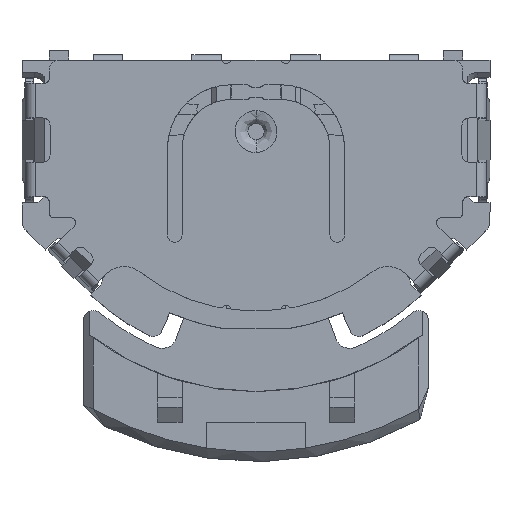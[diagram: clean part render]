
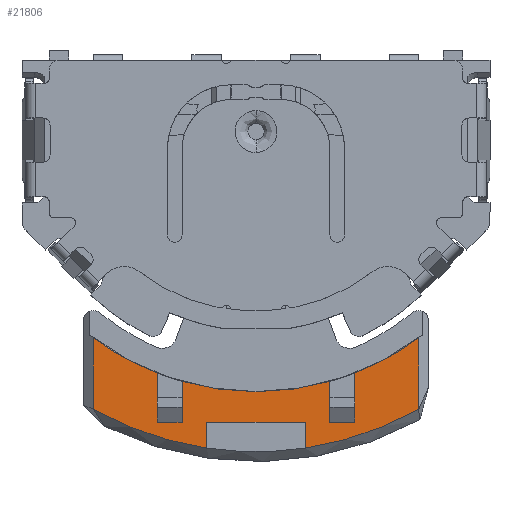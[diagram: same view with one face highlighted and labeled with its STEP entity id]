
A CAD part, top view. The second image highlights one B-rep face of the part: STEP entity #21806.
In plain terms, the highlighted planar face has unit normal (0, 0, 1).
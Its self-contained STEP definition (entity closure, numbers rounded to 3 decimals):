
#165 = CARTESIAN_POINT ( 'NONE',  ( -1., -6.676, -5.2 ) ) ;
#202 = VECTOR ( 'NONE', #15166, 1000. ) ;
#405 = VERTEX_POINT ( 'NONE', #165 ) ;
#428 = EDGE_CURVE ( 'NONE', #12912, #20238, #3675, .T. ) ;
#496 = DIRECTION ( 'NONE',  ( -1., 0., 0. ) ) ;
#499 = AXIS2_PLACEMENT_3D ( 'NONE', #1340, #14045, #3149 ) ;
#554 = LINE ( 'NONE', #22829, #19348 ) ;
#783 = DIRECTION ( 'NONE',  ( 0., 0., 1. ) ) ;
#986 = AXIS2_PLACEMENT_3D ( 'NONE', #13020, #2152, #14880 ) ;
#1002 = DIRECTION ( 'NONE',  ( 0., -1., 0. ) ) ;
#1262 = PLANE ( 'NONE',  #499 ) ;
#1340 = CARTESIAN_POINT ( 'NONE',  ( 3.3, -6.689, -5.2 ) ) ;
#1372 = DIRECTION ( 'NONE',  ( -1., 0., 0. ) ) ;
#1531 = CARTESIAN_POINT ( 'NONE',  ( 0., -6.15, -5.2 ) ) ;
#1600 = VECTOR ( 'NONE', #1372, 1000. ) ;
#1644 = DIRECTION ( 'NONE',  ( 0., -1., 0. ) ) ;
#1645 = CIRCLE ( 'NONE', #12744, 5.53 ) ;
#1815 = CARTESIAN_POINT ( 'NONE',  ( -1.5, -5.323, -5.2 ) ) ;
#2152 = DIRECTION ( 'NONE',  ( 0., 0., -1. ) ) ;
#2460 = LINE ( 'NONE', #12924, #7247 ) ;
#2471 = DIRECTION ( 'NONE',  ( 0., 1., 0. ) ) ;
#2616 = CIRCLE ( 'NONE', #986, 5.53 ) ;
#2637 = VERTEX_POINT ( 'NONE', #9188 ) ;
#3149 = DIRECTION ( 'NONE',  ( 0., 1., 0. ) ) ;
#3254 = EDGE_CURVE ( 'NONE', #2637, #12912, #23523, .T. ) ;
#3315 = CARTESIAN_POINT ( 'NONE',  ( -3.3, -4.437, -5.2 ) ) ;
#3675 = LINE ( 'NONE', #16595, #8467 ) ;
#3875 = LINE ( 'NONE', #18636, #22714 ) ;
#4050 = VERTEX_POINT ( 'NONE', #19304 ) ;
#4281 = EDGE_CURVE ( 'NONE', #19255, #405, #16537, .T. ) ;
#4450 = CARTESIAN_POINT ( 'NONE',  ( 1.5, -6.15, -5.2 ) ) ;
#4757 = CARTESIAN_POINT ( 'NONE',  ( 1., -5.556, -5.2 ) ) ;
#5122 = LINE ( 'NONE', #22086, #9926 ) ;
#5447 = VECTOR ( 'NONE', #21298, 1000. ) ;
#5459 = VERTEX_POINT ( 'NONE', #3315 ) ;
#5498 = DIRECTION ( 'NONE',  ( 0., 1., 0. ) ) ;
#5629 = EDGE_CURVE ( 'NONE', #17102, #2637, #2460, .T. ) ;
#5852 = DIRECTION ( 'NONE',  ( 0., 1., 0. ) ) ;
#5979 = EDGE_CURVE ( 'NONE', #20238, #8127, #6367, .T. ) ;
#6038 = ORIENTED_EDGE ( 'NONE', *, *, #7998, .T. ) ;
#6367 = LINE ( 'NONE', #1531, #1600 ) ;
#6835 = CARTESIAN_POINT ( 'NONE',  ( 0., 0., -5.2 ) ) ;
#6966 = VECTOR ( 'NONE', #2471, 1000. ) ;
#7213 = VERTEX_POINT ( 'NONE', #15674 ) ;
#7247 = VECTOR ( 'NONE', #10449, 1000. ) ;
#7655 = CARTESIAN_POINT ( 'NONE',  ( 2., -5.156, -5.2 ) ) ;
#7998 = EDGE_CURVE ( 'NONE', #405, #7213, #10000, .T. ) ;
#8079 = LINE ( 'NONE', #20646, #6966 ) ;
#8127 = VERTEX_POINT ( 'NONE', #9540 ) ;
#8289 = CARTESIAN_POINT ( 'NONE',  ( 0., 0., -5.2 ) ) ;
#8372 = EDGE_CURVE ( 'NONE', #5459, #19255, #13397, .T. ) ;
#8467 = VECTOR ( 'NONE', #20426, 1000. ) ;
#8513 = VECTOR ( 'NONE', #1644, 1000. ) ;
#8651 = DIRECTION ( 'NONE',  ( -1., 0., 0. ) ) ;
#8711 = CARTESIAN_POINT ( 'NONE',  ( 2., -6.15, -5.2 ) ) ;
#9188 = CARTESIAN_POINT ( 'NONE',  ( 1.5, -5.323, -5.2 ) ) ;
#9540 = CARTESIAN_POINT ( 'NONE',  ( -2., -6.15, -5.2 ) ) ;
#9795 = LINE ( 'NONE', #13316, #202 ) ;
#9926 = VECTOR ( 'NONE', #16568, 1000. ) ;
#9946 = ORIENTED_EDGE ( 'NONE', *, *, #5629, .T. ) ;
#10000 = LINE ( 'NONE', #12759, #23492 ) ;
#10244 = EDGE_CURVE ( 'NONE', #4050, #5459, #1645, .T. ) ;
#10449 = DIRECTION ( 'NONE',  ( 0., 1., 0. ) ) ;
#11038 = AXIS2_PLACEMENT_3D ( 'NONE', #23001, #783, #19220 ) ;
#11188 = VERTEX_POINT ( 'NONE', #8711 ) ;
#11351 = DIRECTION ( 'NONE',  ( 0., 0., -1. ) ) ;
#11387 = ORIENTED_EDGE ( 'NONE', *, *, #19606, .T. ) ;
#11394 = CARTESIAN_POINT ( 'NONE',  ( 3.3, -4.437, -5.2 ) ) ;
#11412 = CARTESIAN_POINT ( 'NONE',  ( 1., -6.15, -5.2 ) ) ;
#12744 = AXIS2_PLACEMENT_3D ( 'NONE', #22306, #11351, #496 ) ;
#12759 = CARTESIAN_POINT ( 'NONE',  ( -1., -5.556, -5.2 ) ) ;
#12912 = VERTEX_POINT ( 'NONE', #1815 ) ;
#12924 = CARTESIAN_POINT ( 'NONE',  ( 1.5, -5.556, -5.2 ) ) ;
#12979 = ORIENTED_EDGE ( 'NONE', *, *, #4281, .T. ) ;
#13020 = CARTESIAN_POINT ( 'NONE',  ( 0., 0., -5.2 ) ) ;
#13316 = CARTESIAN_POINT ( 'NONE',  ( 0., -6.15, -5.2 ) ) ;
#13397 = LINE ( 'NONE', #14364, #8513 ) ;
#13895 = EDGE_CURVE ( 'NONE', #21549, #19363, #15161, .T. ) ;
#14037 = ORIENTED_EDGE ( 'NONE', *, *, #18687, .T. ) ;
#14045 = DIRECTION ( 'NONE',  ( 0., 0., 1. ) ) ;
#14343 = VERTEX_POINT ( 'NONE', #23577 ) ;
#14364 = CARTESIAN_POINT ( 'NONE',  ( -3.3, -5.556, -5.2 ) ) ;
#14683 = ORIENTED_EDGE ( 'NONE', *, *, #22614, .T. ) ;
#14874 = ORIENTED_EDGE ( 'NONE', *, *, #3254, .T. ) ;
#14880 = DIRECTION ( 'NONE',  ( -1., 0., 0. ) ) ;
#15161 = LINE ( 'NONE', #4757, #5447 ) ;
#15166 = DIRECTION ( 'NONE',  ( 1., 0., 0. ) ) ;
#15471 = EDGE_CURVE ( 'NONE', #20917, #11188, #554, .T. ) ;
#15674 = CARTESIAN_POINT ( 'NONE',  ( -1., -6.15, -5.2 ) ) ;
#15980 = ORIENTED_EDGE ( 'NONE', *, *, #8372, .T. ) ;
#16019 = CARTESIAN_POINT ( 'NONE',  ( -1.5, -6.15, -5.2 ) ) ;
#16285 = ORIENTED_EDGE ( 'NONE', *, *, #5979, .T. ) ;
#16382 = FACE_OUTER_BOUND ( 'NONE', #19472, .T. ) ;
#16537 = CIRCLE ( 'NONE', #11038, 6.75 ) ;
#16568 = DIRECTION ( 'NONE',  ( -1., 0., 0. ) ) ;
#16595 = CARTESIAN_POINT ( 'NONE',  ( -1.5, -5.556, -5.2 ) ) ;
#16673 = ORIENTED_EDGE ( 'NONE', *, *, #18786, .T. ) ;
#17102 = VERTEX_POINT ( 'NONE', #4450 ) ;
#17802 = AXIS2_PLACEMENT_3D ( 'NONE', #6835, #19645, #8651 ) ;
#18636 = CARTESIAN_POINT ( 'NONE',  ( 3.3, -5.556, -5.2 ) ) ;
#18687 = EDGE_CURVE ( 'NONE', #14343, #23271, #3875, .T. ) ;
#18786 = EDGE_CURVE ( 'NONE', #8127, #4050, #8079, .T. ) ;
#18925 = CARTESIAN_POINT ( 'NONE',  ( 1., -6.676, -5.2 ) ) ;
#19220 = DIRECTION ( 'NONE',  ( -1., 0., 0. ) ) ;
#19255 = VERTEX_POINT ( 'NONE', #22143 ) ;
#19304 = CARTESIAN_POINT ( 'NONE',  ( -2., -5.156, -5.2 ) ) ;
#19348 = VECTOR ( 'NONE', #1002, 1000. ) ;
#19363 = VERTEX_POINT ( 'NONE', #18925 ) ;
#19472 = EDGE_LOOP ( 'NONE', ( #14683, #20300, #21770, #9946, #14874, #21829, #16285, #16673, #23419, #15980, #12979, #6038, #22790, #23555, #11387, #14037 ) ) ;
#19487 = DIRECTION ( 'NONE',  ( 0., 0., -1. ) ) ;
#19606 = EDGE_CURVE ( 'NONE', #19363, #14343, #23269, .T. ) ;
#19645 = DIRECTION ( 'NONE',  ( 0., 0., 1. ) ) ;
#20238 = VERTEX_POINT ( 'NONE', #16019 ) ;
#20300 = ORIENTED_EDGE ( 'NONE', *, *, #15471, .T. ) ;
#20426 = DIRECTION ( 'NONE',  ( 0., -1., 0. ) ) ;
#20646 = CARTESIAN_POINT ( 'NONE',  ( -2., -5.556, -5.2 ) ) ;
#20802 = DIRECTION ( 'NONE',  ( -1., 0., 0. ) ) ;
#20824 = EDGE_CURVE ( 'NONE', #11188, #17102, #5122, .T. ) ;
#20917 = VERTEX_POINT ( 'NONE', #7655 ) ;
#21298 = DIRECTION ( 'NONE',  ( 0., -1., 0. ) ) ;
#21549 = VERTEX_POINT ( 'NONE', #11412 ) ;
#21578 = EDGE_CURVE ( 'NONE', #7213, #21549, #9795, .T. ) ;
#21770 = ORIENTED_EDGE ( 'NONE', *, *, #20824, .T. ) ;
#21806 = ADVANCED_FACE ( 'NONE', ( #16382 ), #1262, .T. ) ;
#21829 = ORIENTED_EDGE ( 'NONE', *, *, #428, .T. ) ;
#22086 = CARTESIAN_POINT ( 'NONE',  ( 0., -6.15, -5.2 ) ) ;
#22143 = CARTESIAN_POINT ( 'NONE',  ( -3.3, -5.888, -5.2 ) ) ;
#22306 = CARTESIAN_POINT ( 'NONE',  ( 0., 0., -5.2 ) ) ;
#22366 = AXIS2_PLACEMENT_3D ( 'NONE', #8289, #19487, #20802 ) ;
#22614 = EDGE_CURVE ( 'NONE', #23271, #20917, #2616, .T. ) ;
#22714 = VECTOR ( 'NONE', #5852, 1000. ) ;
#22790 = ORIENTED_EDGE ( 'NONE', *, *, #21578, .T. ) ;
#22829 = CARTESIAN_POINT ( 'NONE',  ( 2., -5.556, -5.2 ) ) ;
#23001 = CARTESIAN_POINT ( 'NONE',  ( 0., 0., -5.2 ) ) ;
#23269 = CIRCLE ( 'NONE', #17802, 6.75 ) ;
#23271 = VERTEX_POINT ( 'NONE', #11394 ) ;
#23419 = ORIENTED_EDGE ( 'NONE', *, *, #10244, .T. ) ;
#23492 = VECTOR ( 'NONE', #5498, 1000. ) ;
#23523 = CIRCLE ( 'NONE', #22366, 5.53 ) ;
#23555 = ORIENTED_EDGE ( 'NONE', *, *, #13895, .T. ) ;
#23577 = CARTESIAN_POINT ( 'NONE',  ( 3.3, -5.888, -5.2 ) ) ;
